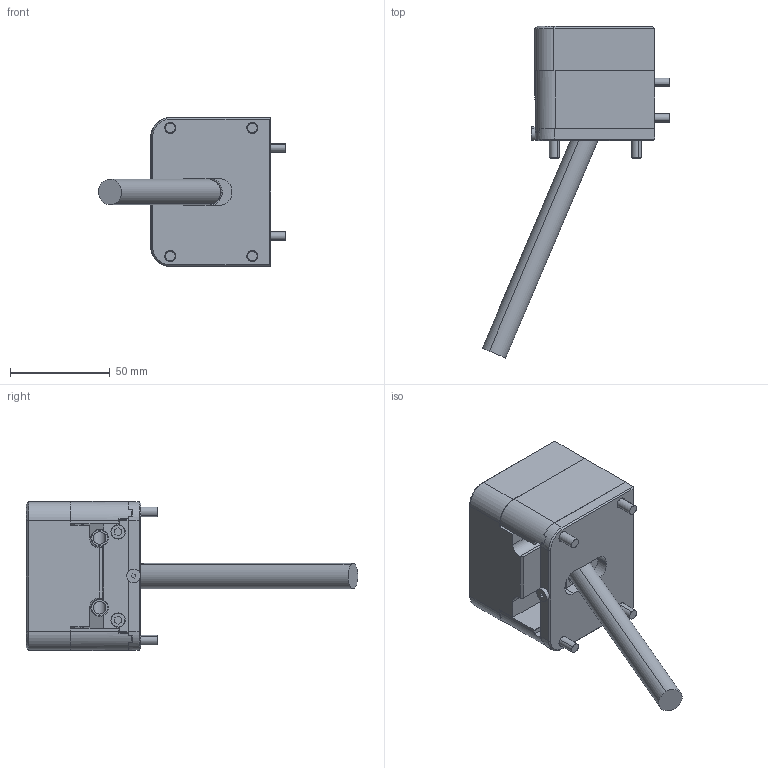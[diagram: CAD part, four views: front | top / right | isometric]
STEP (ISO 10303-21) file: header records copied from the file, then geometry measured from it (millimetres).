
FILE_DESCRIPTION (( 'STEP AP203' ), '1' );
FILE_NAME ('SL-30-40-HT.step', '2025-08-06T00:37:33', ( '' ), ( '' ), 'SwSTEP 2.0', 'SolidWorks 2023', '' );
FILE_SCHEMA (( 'CONFIG_CONTROL_DESIGN' ));
Length unit declared in the file: inch
Products named in the file (12): SL-30101_WEDGE; GDG-30104L; WPL-30101; SHCS10-32L1.50_SHCS10-32L1.50; GDG-30104R; SHCS8-32L1.50_SHCS8-32L1.50; SLD-30102; LHCS8-32L.25_LHCS8-32L.25; CP-30; SL-30-40-HT; WDG-30101; SLK-8A-HT
Assembly tree (17 placements, depth 3):
  SL-30-40-HT
    WPL-30101
    SLD-30102
    GDG-30104R
    GDG-30104L
    SLK-8A-HT
    SHCS10-32L1.50_SHCS10-32L1.50  x4
    LHCS8-32L.25_LHCS8-32L.25
    SL-30101_WEDGE
      WDG-30101
      CP-30
    SHCS8-32L1.50_SHCS8-32L1.50  x4
Bounding box: 93.78 x 166.21 x 74.63 mm (x, y, z)
Volume: 241202.2 mm3; surface area: 78497.5 mm2
Topology: 17 solids, 17 shells, 591 faces, 1498 edges, 956 vertices
Faces by surface type: plane 314, cylinder 196, cone 77, bspline 4
Full cylindrical faces by diameter (mm): 2.184 x1, 2.185 x1, 6.35 x4, 6.351 x4, 7.938 x8
Entity records: 17336 total; most frequent: CARTESIAN_POINT 3260, DIRECTION 2722, ORIENTED_EDGE 2616, EDGE_CURVE 1308, AXIS2_PLACEMENT_3D 974, VERTEX_POINT 836, VECTOR 774, LINE 774
